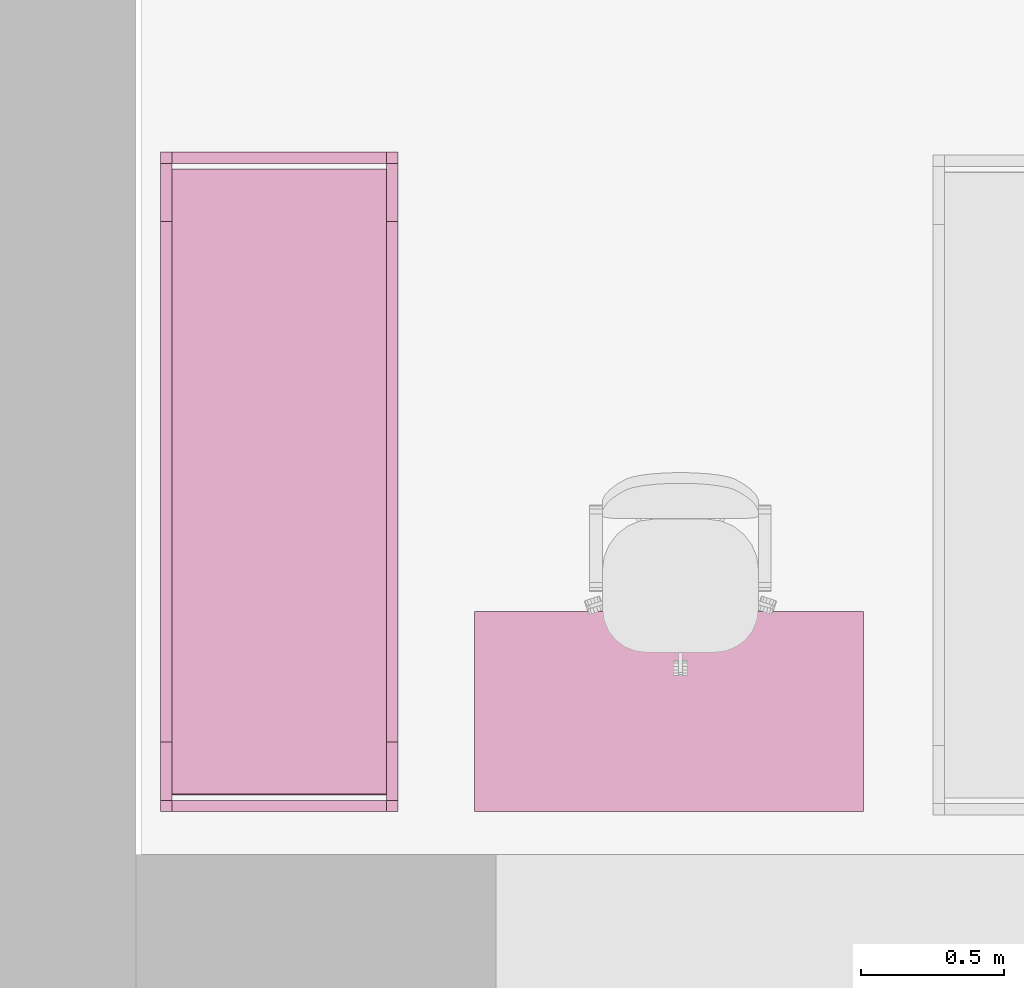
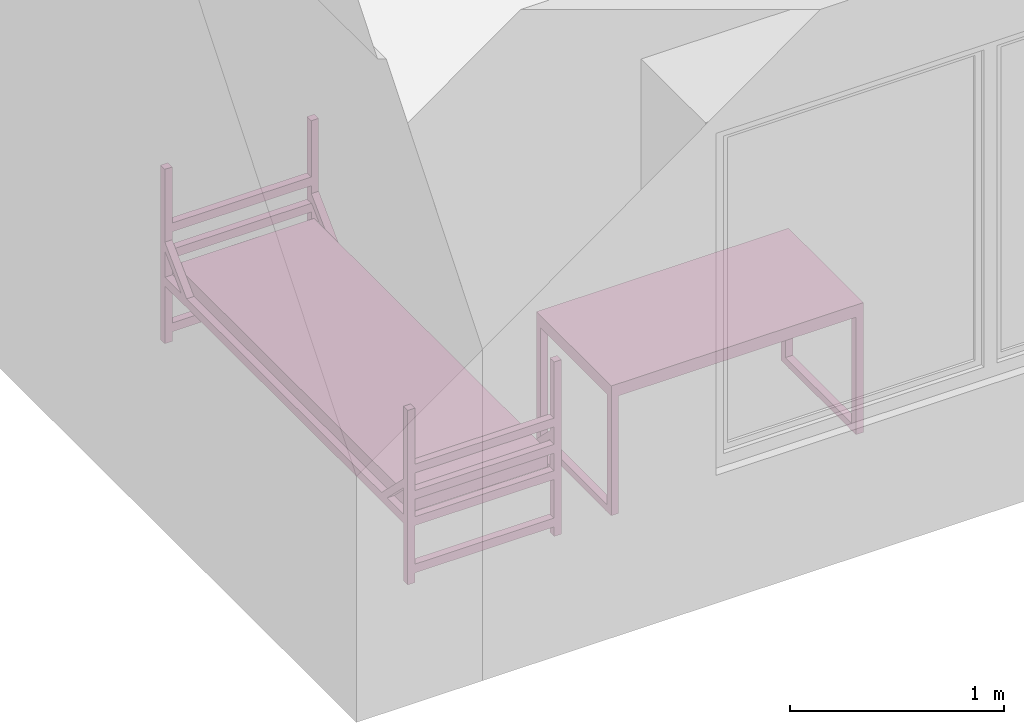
# One storey, part 18 of 46: 2 furnishings.
"""IFC2X3 building model written with IfcOpenShell, lengths in millimetres."""

from ifc_helpers import new_model, entity, si_unit, converted_unit, derived_unit, direction, frame, frame_2d, origin, place, context, subcontext, project, spatial, polyline, circle_curve, parameter, trimmed, segment, composite_curve, rectangle, outline, extrude, faceted_brep, source, transform, mapped, material, material_list, type_object, type_shapes, element, save


model = new_model("IFC2X3")

# Units and contexts
model_context = context("Model", 3, precision=0.01, world=origin(), true_north=direction((6.12303176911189e-17, 1.0)))
body_context = subcontext(model_context, "Body", "Model", "MODEL_VIEW")
ifc_project = project(units=[si_unit("LENGTHUNIT", "METRE", prefix="MILLI"), si_unit("AREAUNIT", "SQUARE_METRE"), si_unit("VOLUMEUNIT", "CUBIC_METRE"), converted_unit("PLANEANGLEUNIT", "DEGREE", entity("IfcRatioMeasure", 0.0174532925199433), si_unit("PLANEANGLEUNIT", "RADIAN"), dimensions=[0, 0, 0, 0, 0, 0, 0]), si_unit("MASSUNIT", "GRAM", prefix="KILO"), derived_unit("MASSDENSITYUNIT", [(si_unit("MASSUNIT", "GRAM", prefix="KILO"), 1), (si_unit("LENGTHUNIT", "METRE"), -3)]), si_unit("TIMEUNIT", "SECOND"), si_unit("FREQUENCYUNIT", "HERTZ"), si_unit("THERMODYNAMICTEMPERATUREUNIT", "DEGREE_CELSIUS"), derived_unit("THERMALTRANSMITTANCEUNIT", [(si_unit("MASSUNIT", "GRAM", prefix="KILO"), 1), (si_unit("THERMODYNAMICTEMPERATUREUNIT", "KELVIN"), -1), (si_unit("TIMEUNIT", "SECOND"), -3)]), derived_unit("VOLUMETRICFLOWRATEUNIT", [(si_unit("LENGTHUNIT", "METRE"), 3), (si_unit("TIMEUNIT", "SECOND"), -1)]), si_unit("ELECTRICCURRENTUNIT", "AMPERE"), si_unit("ELECTRICVOLTAGEUNIT", "VOLT"), si_unit("POWERUNIT", "WATT"), si_unit("FORCEUNIT", "NEWTON", prefix="KILO"), si_unit("ILLUMINANCEUNIT", "LUX"), si_unit("LUMINOUSFLUXUNIT", "LUMEN"), si_unit("LUMINOUSINTENSITYUNIT", "CANDELA"), derived_unit("USERDEFINED", [(si_unit("MASSUNIT", "GRAM", prefix="KILO"), -1), (si_unit("LENGTHUNIT", "METRE"), -2), (si_unit("TIMEUNIT", "SECOND"), 3), (si_unit("LUMINOUSFLUXUNIT", "LUMEN"), 1)]), derived_unit("LINEARVELOCITYUNIT", [(si_unit("LENGTHUNIT", "METRE"), 1), (si_unit("TIMEUNIT", "SECOND"), -1)]), si_unit("PRESSUREUNIT", "PASCAL"), derived_unit("USERDEFINED", [(si_unit("LENGTHUNIT", "METRE"), -2), (si_unit("MASSUNIT", "GRAM", prefix="KILO"), 1), (si_unit("TIMEUNIT", "SECOND"), -2)]), derived_unit("LINEARFORCEUNIT", [(si_unit("MASSUNIT", "GRAM", prefix="KILO"), 1), (si_unit("LENGTHUNIT", "METRE"), 1), (si_unit("TIMEUNIT", "SECOND"), -2), (si_unit("LENGTHUNIT", "METRE"), -1)]), derived_unit("PLANARFORCEUNIT", [(si_unit("MASSUNIT", "GRAM", prefix="KILO"), 1), (si_unit("LENGTHUNIT", "METRE"), 1), (si_unit("TIMEUNIT", "SECOND"), -2), (si_unit("LENGTHUNIT", "METRE"), -2)])], contexts=[model_context])

# Site, building, storey, space
site_placement = place(None, origin())
site = spatial("IfcSite", under=ifc_project, at=site_placement, Name="Default", CompositionType="ELEMENT")
building_placement = place(site_placement, origin())
building = spatial("IfcBuilding", under=site, at=building_placement, Name="SMA ARH", CompositionType="ELEMENT")
storey_placement = place(building_placement, frame((0.0, 0.0, 9910.0)))
storey = spatial("IfcBuildingStorey", under=building, at=storey_placement, Name="4 Korrus", CompositionType="ELEMENT", Elevation=9909.9999999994)
space_placement = place(storey_placement, origin())
space = spatial("IfcSpace", under=storey, at=space_placement, Name="4-15", CompositionType="ELEMENT", InteriorOrExteriorSpace="INTERNAL")

# Furnishings
ifc_material_1 = material(Name="Madrats")
furniture_type_1 = type_object("IfcFurnitureType", Name="Kasarmu voodi ühekordne 2308x830:Kasarmu voodi ühekordne 2308x830", material=ifc_material_1)
shared_shape_1 = source(origin(), body_context, "Body", "SweptSolid", [
    extrude(rectangle(XDim=39.9999999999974, YDim=750.000000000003, at=frame_2d((-1.35003119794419e-13, -2.8421709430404e-14), x_axis=(1.0, 0.0))), frame((1.68638457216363, -1226.7969571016, 55.0), z_axis=(0.0, 0.0, 1.0), x_axis=(0.0, -1.0, 0.0)), (0.0, 0.0, 1.0), 49.9999999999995),
    extrude(rectangle(XDim=39.9999999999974, YDim=750.000000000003, at=frame_2d((-1.35003119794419e-13, -2.8421709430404e-14), x_axis=(1.0, 0.0))), frame((1.68638457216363, -1226.7969571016, 325.0), z_axis=(0.0, 0.0, 1.0), x_axis=(0.0, -1.0, 0.0)), (0.0, 0.0, 1.0), 49.9999999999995),
    extrude(rectangle(XDim=39.9999999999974, YDim=750.000000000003, at=frame_2d((-1.35003119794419e-13, -2.8421709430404e-14), x_axis=(1.0, 0.0))), frame((1.68638457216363, -1226.7969571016, 475.0), z_axis=(0.0, 0.0, 1.0), x_axis=(0.0, -1.0, 0.0)), (0.0, 0.0, 1.0), 49.9999999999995),
    extrude(rectangle(XDim=39.9999999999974, YDim=750.000000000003, at=frame_2d((-1.35003119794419e-13, -2.8421709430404e-14), x_axis=(1.0, 0.0))), frame((1.68638457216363, -1226.7969571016, 625.0), z_axis=(0.0, 0.0, 1.0), x_axis=(0.0, -1.0, 0.0)), (0.0, 0.0, 1.0), 50.0000000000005),
    extrude(rectangle(XDim=39.9999999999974, YDim=750.000000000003, at=frame_2d((1.35003119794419e-13, -2.8421709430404e-14), x_axis=(1.0, 0.0))), frame((1.68638457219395, 1041.2030428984, 55.0), z_axis=(0.0, 0.0, 1.0), x_axis=(0.0, -1.0, 0.0)), (0.0, 0.0, 1.0), 50.0000000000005),
    extrude(rectangle(XDim=39.9999999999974, YDim=750.000000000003, at=frame_2d((1.35003119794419e-13, -2.8421709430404e-14), x_axis=(1.0, 0.0))), frame((1.68638457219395, 1041.2030428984, 325.0), z_axis=(0.0, 0.0, 1.0), x_axis=(0.0, -1.0, 0.0)), (0.0, 0.0, 1.0), 50.0000000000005),
    extrude(rectangle(XDim=39.9999999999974, YDim=750.000000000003, at=frame_2d((1.35003119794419e-13, -2.8421709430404e-14), x_axis=(1.0, 0.0))), frame((1.68638457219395, 1041.2030428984, 475.0), z_axis=(0.0, 0.0, 1.0), x_axis=(0.0, -1.0, 0.0)), (0.0, 0.0, 1.0), 50.0000000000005),
    extrude(rectangle(XDim=39.9999999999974, YDim=750.000000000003, at=frame_2d((1.35003119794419e-13, -2.8421709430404e-14), x_axis=(1.0, 0.0))), frame((1.68638457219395, 1041.2030428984, 625.0), z_axis=(0.0, 0.0, 1.0), x_axis=(0.0, -1.0, 0.0)), (0.0, 0.0, 1.0), 49.9999999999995),
    extrude(outline(composite_curve([segment(trimmed(circle_curve(frame_2d((1085.0, -40.0), x_axis=(1.0, 0.0)), 10.0), [parameter(270.0)], [parameter(0.0)], True, "PARAMETER"), True, "CONTINUOUS"), segment(polyline([(1095.0, -40.0), (1095.0, 40.0)]), True, "CONTINUOUS"), segment(trimmed(circle_curve(frame_2d((1085.0, 40.0), x_axis=(1.0, 0.0)), 10.0), [parameter(0.0)], [parameter(90.0000000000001)], True, "PARAMETER"), True, "CONTINUOUS"), segment(polyline([(1085.0, 50.0), (-1085.0, 50.0)]), True, "CONTINUOUS"), segment(trimmed(circle_curve(frame_2d((-1085.0, 40.0), x_axis=(1.0, 0.0)), 10.0), [parameter(90.0000000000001)], [parameter(180.0)], True, "PARAMETER"), True, "CONTINUOUS"), segment(polyline([(-1095.0, 40.0), (-1095.0, -40.0)]), True, "CONTINUOUS"), segment(trimmed(circle_curve(frame_2d((-1085.0, -40.0), x_axis=(1.0, 0.0)), 10.0), [parameter(180.0)], [parameter(270.0)], True, "PARAMETER"), True, "CONTINUOUS"), segment(polyline([(-1085.0, -50.0), (1085.0, -50.0)]), True, "CONTINUOUS")], self_intersect=False)), frame((-373.313615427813, -92.7969571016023, 405.0), z_axis=(1.0, 0.0, 0.0), x_axis=(0.0, -1.0, 0.0)), (0.0, 0.0, 1.0), 750.000000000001),
    extrude(outline(polyline([(-1114.0, -100.0), (1114.0, -100.0), (1114.0, -50.0), (961.59199141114, -50.0), (1114.0, 100.0), (1114.0, 150.0), (910.789321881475, -50.0), (-910.789321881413, -50.0), (-1114.0, 150.0), (-1114.0, 100.0), (-961.591991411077, -50.0), (-1114.0, -50.0), (-1114.0, -100.0)])), frame((-413.313615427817, -92.7969571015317, 430.0), z_axis=(1.0, 0.0, 0.0), x_axis=(0.0, 1.0, 0.0)), (0.0, 0.0, 1.0), 39.9999999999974),
    extrude(outline(polyline([(-1114.0, -100.0), (1114.0, -100.0), (1114.0, -50.0), (961.591991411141, -50.0), (1114.0, 100.0), (1114.0, 150.0), (910.789321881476, -50.0), (-910.789321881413, -50.0), (-1114.0, 150.0), (-1114.0, 100.0), (-961.591991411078, -50.0), (-1114.0, -50.0), (-1114.0, -100.0)])), frame((376.686384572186, -92.796957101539, 430.0), z_axis=(1.0, 0.0, 0.0), x_axis=(0.0, 1.0, 0.0)), (0.0, 0.0, 1.0), 39.9999999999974),
    extrude(rectangle(XDim=39.9999999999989, YDim=39.9999999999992, at=frame_2d((-6.75015598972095e-14, 0.0), x_axis=(1.0, 0.0))), frame((396.686384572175, -1226.79695710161, 0.0), z_axis=(0.0, 0.0, 1.0), x_axis=(0.0, 1.0, 0.0)), (0.0, 0.0, 1.0), 995.0),
    extrude(rectangle(XDim=39.9999999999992, YDim=39.9999999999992, at=frame_2d((-1.35003119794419e-13, 0.0), x_axis=(1.0, 0.0))), frame((396.686384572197, 1041.20304289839, 0.0), z_axis=(0.0, 0.0, 1.0), x_axis=(0.0, 1.0, 0.0)), (0.0, 0.0, 1.0), 995.0),
    extrude(rectangle(XDim=40.0000000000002, YDim=39.9999999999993, at=frame_2d((-1.35003119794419e-13, 0.0), x_axis=(1.0, 0.0))), frame((-393.313615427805, 1041.2030428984, 0.0), z_axis=(0.0, 0.0, 1.0), x_axis=(0.0, 1.0, 0.0)), (0.0, 0.0, 1.0), 995.0),
    extrude(rectangle(XDim=39.9999999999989, YDim=39.9999999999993, at=frame_2d((-6.75015598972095e-14, 0.0), x_axis=(1.0, 0.0))), frame((-393.313615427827, -1226.7969571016, 0.0), z_axis=(0.0, 0.0, 1.0), x_axis=(0.0, 1.0, 0.0)), (0.0, 0.0, 1.0), 995.0),
])
type_shapes(furniture_type_1, [shared_shape_1])
furnishing_1_placement = place(space_placement, frame((480.0, 1396.7969571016, 0.0)))
element("IfcFurnishingElement", 1, at=furnishing_1_placement, inside=space, type_object=furniture_type_1, material=ifc_material_1, Name="Kasarmu voodi ühekordne 2308x830:Kasarmu voodi ühekordne 2308x830", ObjectType="Kasarmu voodi ühekordne 2308x830:Kasarmu voodi ühekordne 2308x830", context=body_context, shape_type="MappedRepresentation", body=[
    mapped(shared_shape_1, transform((0.0, 0.0, 0.0), scale=1.0)),
])
ifc_material_2 = material(Name="<Unnamed>")
ifc_material_list = material_list([ifc_material_2, ifc_material_2])
furniture_type_2 = type_object("IfcFurnitureType", Name="kirjutuslaud 1360x700mm:kirjutuslaud 1360x700mm", material=ifc_material_list)
shared_shape_2 = source(origin(), body_context, "Body", "Brep", [
    faceted_brep([(680.0, -350.0, 720.0), (680.0, 350.0, 720.0), (680.0, 350.0, 750.0), (680.0, -350.0, 750.0), (-680.0, -350.0, 720.0), (-680.0, -350.0, 750.0), (-680.0, 350.0, 750.0), (-680.0, 350.0, 720.0)], [[[0, 1, 2, 3]], [[4, 5, 6, 7]], [[1, 0, 4, 7]], [[2, 1, 7, 6]], [[3, 2, 6, 5]], [[0, 3, 5, 4]]]),
    faceted_brep([(-640.0, -310.0, 680.0), (-640.0, 310.0, 680.0), (-640.0, 310.0, 720.0), (-640.0, -310.0, 720.0), (-680.0, -350.0, 720.0), (-680.0, 350.0, 720.0), (-680.0, 350.0, 10.0), (-680.0, -350.0, 10.0), (-680.0, 310.0, 680.0), (-680.0, -310.0, 680.0), (-680.0, -310.0, 50.0), (-680.0, 310.0, 50.0), (-640.0, -350.0, 10.0), (-640.0, -350.0, 680.0), (640.0, -350.0, 680.0), (640.0, -350.0, 10.0), (680.0, -350.0, 10.0), (680.0, -350.0, 720.0), (-640.0, 350.0, 10.0), (680.0, 350.0, 720.0), (680.0, 350.0, 10.0), (640.0, 350.0, 10.0), (640.0, 350.0, 680.0), (-640.0, 350.0, 680.0), (640.0, 310.0, 720.0), (640.0, -310.0, 720.0), (-640.0, 310.0, 50.0), (-640.0, -310.0, 50.0), (640.0, -310.0, 680.0), (640.0, 310.0, 680.0), (680.0, 310.0, 680.0), (680.0, 310.0, 50.0), (680.0, -310.0, 50.0), (680.0, -310.0, 680.0), (640.0, -310.0, 50.0), (640.0, 310.0, 50.0)], [[[0, 1, 2, 3]], [[4, 5, 6, 7], [8, 9, 10, 11]], [[4, 7, 12, 13, 14, 15, 16, 17]], [[18, 12, 7, 6]], [[6, 5, 19, 20, 21, 22, 23, 18]], [[19, 5, 4, 17], [2, 24, 25, 3]], [[26, 1, 8, 11]], [[27, 26, 11, 10]], [[0, 27, 10, 9]], [[1, 0, 9, 8]], [[14, 13, 0, 28]], [[24, 2, 1, 29]], [[3, 25, 28, 0]], [[17, 16, 20, 19], [30, 31, 32, 33]], [[21, 15, 14, 28, 34, 35, 29, 22]], [[20, 16, 15, 21]], [[31, 30, 29, 35]], [[32, 31, 35, 34]], [[33, 32, 34, 28]], [[30, 33, 28, 29]], [[29, 28, 25, 24]], [[29, 1, 23, 22]], [[12, 18, 23, 1, 26, 27, 0, 13]]]),
    faceted_brep([(-663.729456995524, -270.466136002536, 0.0), (-659.847171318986, -269.955023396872, 0.0), (-655.964885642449, -270.466136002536, 0.0), (-652.347171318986, -271.964642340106, 0.0), (-649.240569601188, -274.348421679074, 0.0), (-646.85679026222, -277.455023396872, 0.0), (-645.35828392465, -281.072737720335, 0.0), (-644.847171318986, -284.955023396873, 0.0), (-645.35828392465, -288.83730907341, 0.0), (-646.85679026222, -292.455023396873, 0.0), (-649.240569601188, -295.561625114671, 0.0), (-652.347171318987, -297.945404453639, 0.0), (-655.964885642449, -299.443910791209, 0.0), (-659.847171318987, -299.955023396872, 0.0), (-663.729456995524, -299.443910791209, 0.0), (-667.347171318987, -297.945404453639, 0.0), (-670.453773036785, -295.561625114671, 0.0), (-672.837552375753, -292.455023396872, 0.0), (-674.336058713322, -288.83730907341, 0.0), (-674.847171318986, -284.955023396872, 0.0), (-674.336058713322, -281.072737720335, 0.0), (-672.837552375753, -277.455023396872, 0.0), (-670.453773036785, -274.348421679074, 0.0), (-667.347171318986, -271.964642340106, 0.0), (-655.964885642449, -299.443910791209, 10.0), (-652.347171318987, -297.945404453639, 10.0), (-649.240569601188, -295.561625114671, 10.0), (-646.85679026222, -292.455023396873, 10.0), (-645.35828392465, -288.83730907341, 10.0), (-644.847171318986, -284.955023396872, 10.0), (-645.35828392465, -281.072737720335, 10.0), (-646.85679026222, -277.455023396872, 10.0), (-649.240569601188, -274.348421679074, 10.0), (-652.347171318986, -271.964642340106, 10.0), (-655.964885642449, -270.466136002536, 10.0), (-659.847171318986, -269.955023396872, 10.0), (-663.729456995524, -270.466136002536, 10.0), (-667.347171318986, -271.964642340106, 10.0), (-670.453773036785, -274.348421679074, 10.0), (-672.837552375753, -277.455023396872, 10.0), (-674.336058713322, -281.072737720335, 10.0), (-674.847171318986, -284.955023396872, 10.0), (-674.336058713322, -288.83730907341, 10.0), (-672.837552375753, -292.455023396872, 10.0), (-670.453773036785, -295.561625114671, 10.0), (-667.347171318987, -297.945404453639, 10.0), (-663.729456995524, -299.443910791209, 10.0), (-659.847171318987, -299.955023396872, 10.0)], [[[0, 1, 2, 3, 4, 5, 6, 7, 8, 9, 10, 11, 12, 13, 14, 15, 16, 17, 18, 19, 20, 21, 22, 23]], [[24, 25, 26, 27, 28, 29, 30, 31, 32, 33, 34, 35, 36, 37, 38, 39, 40, 41, 42, 43, 44, 45, 46, 47]], [[18, 42, 41, 19]], [[17, 43, 42, 18]], [[45, 44, 16, 15]], [[17, 16, 44, 43]], [[46, 45, 15, 14]], [[47, 46, 14, 13]], [[12, 24, 47, 13]], [[11, 25, 24, 12]], [[27, 26, 10, 9]], [[11, 10, 26, 25]], [[28, 27, 9, 8]], [[29, 28, 8, 7]], [[6, 30, 29, 7]], [[5, 31, 30, 6]], [[33, 32, 4, 3]], [[5, 4, 32, 31]], [[34, 33, 3, 2]], [[35, 34, 2, 1]], [[0, 36, 35, 1]], [[23, 37, 36, 0]], [[39, 38, 22, 21]], [[23, 22, 38, 37]], [[40, 39, 21, 20]], [[41, 40, 20, 19]]]),
    faceted_brep([(-655.964885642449, 270.466136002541, 10.0), (-652.347171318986, 271.964642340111, 10.0), (-649.240569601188, 274.348421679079, 10.0), (-646.85679026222, 277.455023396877, 10.0), (-645.35828392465, 281.07273772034, 10.0), (-644.847171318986, 284.955023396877, 10.0), (-645.35828392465, 288.837309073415, 10.0), (-646.85679026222, 292.455023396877, 10.0), (-649.240569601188, 295.561625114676, 10.0), (-652.347171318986, 297.945404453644, 10.0), (-655.964885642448, 299.443910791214, 10.0), (-659.847171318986, 299.955023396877, 10.0), (-663.729456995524, 299.443910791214, 10.0), (-667.347171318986, 297.945404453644, 10.0), (-670.453773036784, 295.561625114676, 10.0), (-672.837552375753, 292.455023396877, 10.0), (-674.336058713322, 288.837309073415, 10.0), (-674.847171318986, 284.955023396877, 10.0), (-674.336058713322, 281.07273772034, 10.0), (-672.837552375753, 277.455023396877, 10.0), (-670.453773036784, 274.348421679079, 10.0), (-667.347171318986, 271.964642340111, 10.0), (-663.729456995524, 270.466136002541, 10.0), (-659.847171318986, 269.955023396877, 10.0), (-655.964885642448, 299.443910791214, 0.0), (-652.347171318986, 297.945404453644, 0.0), (-649.240569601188, 295.561625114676, 0.0), (-646.85679026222, 292.455023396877, 0.0), (-645.35828392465, 288.837309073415, 0.0), (-644.847171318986, 284.955023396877, 0.0), (-645.35828392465, 281.07273772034, 0.0), (-646.85679026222, 277.455023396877, 0.0), (-649.240569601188, 274.348421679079, 0.0), (-652.347171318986, 271.964642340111, 0.0), (-655.964885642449, 270.466136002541, 0.0), (-659.847171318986, 269.955023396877, 0.0), (-663.729456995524, 270.466136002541, 0.0), (-667.347171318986, 271.964642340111, 0.0), (-670.453773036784, 274.348421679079, 0.0), (-672.837552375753, 277.455023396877, 0.0), (-674.336058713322, 281.07273772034, 0.0), (-674.847171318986, 284.955023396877, 0.0), (-674.336058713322, 288.837309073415, 0.0), (-672.837552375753, 292.455023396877, 0.0), (-670.453773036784, 295.561625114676, 0.0), (-667.347171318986, 297.945404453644, 0.0), (-663.729456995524, 299.443910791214, 0.0), (-659.847171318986, 299.955023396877, 0.0)], [[[0, 1, 2, 3, 4, 5, 6, 7, 8, 9, 10, 11, 12, 13, 14, 15, 16, 17, 18, 19, 20, 21, 22, 23]], [[24, 25, 26, 27, 28, 29, 30, 31, 32, 33, 34, 35, 36, 37, 38, 39, 40, 41, 42, 43, 44, 45, 46, 47]], [[40, 18, 17, 41]], [[39, 19, 18, 40]], [[21, 20, 38, 37]], [[39, 38, 20, 19]], [[22, 21, 37, 36]], [[23, 22, 36, 35]], [[34, 0, 23, 35]], [[33, 1, 0, 34]], [[3, 2, 32, 31]], [[33, 32, 2, 1]], [[4, 3, 31, 30]], [[5, 4, 30, 29]], [[28, 6, 5, 29]], [[27, 7, 6, 28]], [[9, 8, 26, 25]], [[27, 26, 8, 7]], [[10, 9, 25, 24]], [[11, 10, 24, 47]], [[46, 12, 11, 47]], [[45, 13, 12, 46]], [[15, 14, 44, 43]], [[45, 44, 14, 13]], [[16, 15, 43, 42]], [[17, 16, 42, 41]]]),
    faceted_brep([(656.270543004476, -270.466136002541, 0.0), (660.152828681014, -269.955023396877, 0.0), (664.035114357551, -270.466136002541, 0.0), (667.652828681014, -271.96464234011, 0.0), (670.759430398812, -274.348421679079, 0.0), (673.14320973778, -277.455023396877, 0.0), (674.64171607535, -281.072737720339, 0.0), (675.152828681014, -284.955023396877, 0.0), (674.64171607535, -288.837309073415, 0.0), (673.14320973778, -292.455023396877, 0.0), (670.759430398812, -295.561625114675, 0.0), (667.652828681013, -297.945404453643, 0.0), (664.035114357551, -299.443910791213, 0.0), (660.152828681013, -299.955023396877, 0.0), (656.270543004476, -299.443910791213, 0.0), (652.652828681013, -297.945404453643, 0.0), (649.546226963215, -295.561625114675, 0.0), (647.162447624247, -292.455023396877, 0.0), (645.663941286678, -288.837309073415, 0.0), (645.152828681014, -284.955023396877, 0.0), (645.663941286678, -281.072737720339, 0.0), (647.162447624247, -277.455023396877, 0.0), (649.546226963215, -274.348421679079, 0.0), (652.652828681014, -271.96464234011, 0.0), (664.035114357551, -299.443910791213, 10.0), (667.652828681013, -297.945404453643, 10.0), (670.759430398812, -295.561625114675, 10.0), (673.14320973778, -292.455023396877, 10.0), (674.64171607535, -288.837309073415, 10.0), (675.152828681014, -284.955023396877, 10.0), (674.64171607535, -281.072737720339, 10.0), (673.14320973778, -277.455023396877, 10.0), (670.759430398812, -274.348421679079, 10.0), (667.652828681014, -271.96464234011, 10.0), (664.035114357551, -270.466136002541, 10.0), (660.152828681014, -269.955023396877, 10.0), (656.270543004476, -270.466136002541, 10.0), (652.652828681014, -271.96464234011, 10.0), (649.546226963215, -274.348421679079, 10.0), (647.162447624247, -277.455023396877, 10.0), (645.663941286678, -281.072737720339, 10.0), (645.152828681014, -284.955023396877, 10.0), (645.663941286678, -288.837309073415, 10.0), (647.162447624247, -292.455023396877, 10.0), (649.546226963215, -295.561625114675, 10.0), (652.652828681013, -297.945404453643, 10.0), (656.270543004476, -299.443910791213, 10.0), (660.152828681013, -299.955023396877, 10.0)], [[[0, 1, 2, 3, 4, 5, 6, 7, 8, 9, 10, 11, 12, 13, 14, 15, 16, 17, 18, 19, 20, 21, 22, 23]], [[24, 25, 26, 27, 28, 29, 30, 31, 32, 33, 34, 35, 36, 37, 38, 39, 40, 41, 42, 43, 44, 45, 46, 47]], [[18, 42, 41, 19]], [[17, 43, 42, 18]], [[45, 44, 16, 15]], [[17, 16, 44, 43]], [[46, 45, 15, 14]], [[47, 46, 14, 13]], [[12, 24, 47, 13]], [[11, 25, 24, 12]], [[27, 26, 10, 9]], [[11, 10, 26, 25]], [[28, 27, 9, 8]], [[29, 28, 8, 7]], [[6, 30, 29, 7]], [[5, 31, 30, 6]], [[33, 32, 4, 3]], [[5, 4, 32, 31]], [[34, 33, 3, 2]], [[35, 34, 2, 1]], [[0, 36, 35, 1]], [[23, 37, 36, 0]], [[39, 38, 22, 21]], [[23, 22, 38, 37]], [[40, 39, 21, 20]], [[41, 40, 20, 19]]]),
    faceted_brep([(664.035114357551, 270.466136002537, 10.0), (667.652828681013, 271.964642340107, 10.0), (670.759430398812, 274.348421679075, 10.0), (673.14320973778, 277.455023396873, 10.0), (674.64171607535, 281.072737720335, 10.0), (675.152828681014, 284.955023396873, 10.0), (674.64171607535, 288.837309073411, 10.0), (673.14320973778, 292.455023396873, 10.0), (670.759430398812, 295.561625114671, 10.0), (667.652828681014, 297.94540445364, 10.0), (664.035114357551, 299.443910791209, 10.0), (660.152828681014, 299.955023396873, 10.0), (656.270543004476, 299.443910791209, 10.0), (652.652828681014, 297.94540445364, 10.0), (649.546226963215, 295.561625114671, 10.0), (647.162447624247, 292.455023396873, 10.0), (645.663941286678, 288.837309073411, 10.0), (645.152828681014, 284.955023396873, 10.0), (645.663941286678, 281.072737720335, 10.0), (647.162447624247, 277.455023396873, 10.0), (649.546226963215, 274.348421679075, 10.0), (652.652828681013, 271.964642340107, 10.0), (656.270543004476, 270.466136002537, 10.0), (660.152828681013, 269.955023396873, 10.0), (664.035114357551, 299.443910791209, 0.0), (667.652828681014, 297.94540445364, 0.0), (670.759430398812, 295.561625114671, 0.0), (673.14320973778, 292.455023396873, 0.0), (674.64171607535, 288.837309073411, 0.0), (675.152828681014, 284.955023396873, 0.0), (674.64171607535, 281.072737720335, 0.0), (673.14320973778, 277.455023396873, 0.0), (670.759430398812, 274.348421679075, 0.0), (667.652828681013, 271.964642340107, 0.0), (664.035114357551, 270.466136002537, 0.0), (660.152828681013, 269.955023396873, 0.0), (656.270543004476, 270.466136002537, 0.0), (652.652828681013, 271.964642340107, 0.0), (649.546226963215, 274.348421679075, 0.0), (647.162447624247, 277.455023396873, 0.0), (645.663941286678, 281.072737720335, 0.0), (645.152828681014, 284.955023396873, 0.0), (645.663941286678, 288.837309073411, 0.0), (647.162447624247, 292.455023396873, 0.0), (649.546226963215, 295.561625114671, 0.0), (652.652828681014, 297.94540445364, 0.0), (656.270543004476, 299.443910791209, 0.0), (660.152828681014, 299.955023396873, 0.0)], [[[0, 1, 2, 3, 4, 5, 6, 7, 8, 9, 10, 11, 12, 13, 14, 15, 16, 17, 18, 19, 20, 21, 22, 23]], [[24, 25, 26, 27, 28, 29, 30, 31, 32, 33, 34, 35, 36, 37, 38, 39, 40, 41, 42, 43, 44, 45, 46, 47]], [[40, 18, 17, 41]], [[39, 19, 18, 40]], [[21, 20, 38, 37]], [[39, 38, 20, 19]], [[22, 21, 37, 36]], [[23, 22, 36, 35]], [[34, 0, 23, 35]], [[33, 1, 0, 34]], [[3, 2, 32, 31]], [[33, 32, 2, 1]], [[4, 3, 31, 30]], [[5, 4, 30, 29]], [[28, 6, 5, 29]], [[27, 7, 6, 28]], [[9, 8, 26, 25]], [[27, 26, 8, 7]], [[10, 9, 25, 24]], [[11, 10, 24, 47]], [[46, 12, 11, 47]], [[45, 13, 12, 46]], [[15, 14, 44, 43]], [[45, 44, 14, 13]], [[16, 15, 43, 42]], [[17, 16, 42, 41]]]),
])
type_shapes(furniture_type_2, [shared_shape_2])
furnishing_2_placement = place(space_placement, frame((1845.50000000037, 500.0, 0.0)))
element("IfcFurnishingElement", 2, at=furnishing_2_placement, inside=space, type_object=furniture_type_2, Name="kirjutuslaud 1360x700mm:kirjutuslaud 1360x700mm", ObjectType="kirjutuslaud 1360x700mm:kirjutuslaud 1360x700mm", context=body_context, shape_type="MappedRepresentation", body=[
    mapped(shared_shape_2, transform((0.0, 0.0, 0.0), scale=1.0)),
])

save(model, "model.ifc")
